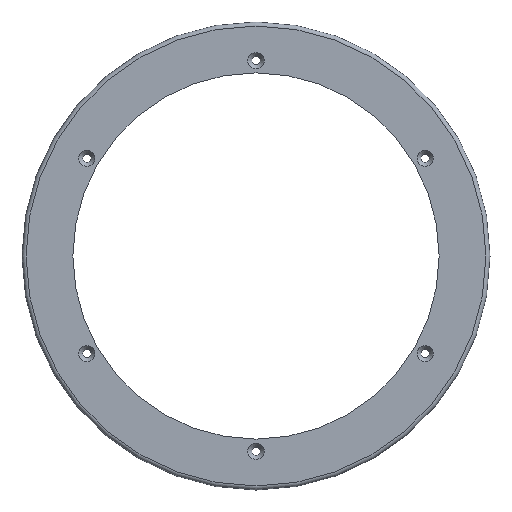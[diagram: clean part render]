
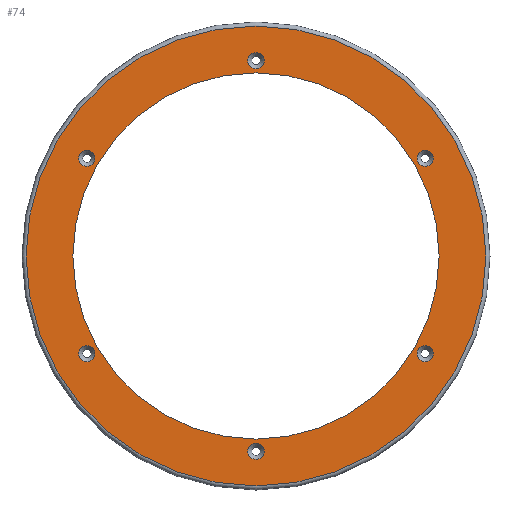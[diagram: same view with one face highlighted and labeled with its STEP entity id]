
A CAD part, front view. The second image highlights one B-rep face of the part: STEP entity #74.
In plain terms, the highlighted planar face has unit normal (0, -1, 0).
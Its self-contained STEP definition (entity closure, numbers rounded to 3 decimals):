
#74 = ADVANCED_FACE( '', ( #163, #164, #165, #166, #167, #168, #169, #170 ), #171, .T. );
#163 = FACE_BOUND( '', #270, .T. );
#164 = FACE_BOUND( '', #271, .T. );
#165 = FACE_BOUND( '', #272, .T. );
#166 = FACE_BOUND( '', #273, .T. );
#167 = FACE_BOUND( '', #274, .T. );
#168 = FACE_BOUND( '', #275, .T. );
#169 = FACE_OUTER_BOUND( '', #276, .T. );
#170 = FACE_BOUND( '', #277, .T. );
#171 = PLANE( '', #278 );
#270 = EDGE_LOOP( '', ( #399 ) );
#271 = EDGE_LOOP( '', ( #400 ) );
#272 = EDGE_LOOP( '', ( #401 ) );
#273 = EDGE_LOOP( '', ( #402 ) );
#274 = EDGE_LOOP( '', ( #403 ) );
#275 = EDGE_LOOP( '', ( #404 ) );
#276 = EDGE_LOOP( '', ( #405 ) );
#277 = EDGE_LOOP( '', ( #406 ) );
#278 = AXIS2_PLACEMENT_3D( '', #407, #408, #409 );
#399 = ORIENTED_EDGE( '', *, *, #468, .T. );
#400 = ORIENTED_EDGE( '', *, *, #483, .T. );
#401 = ORIENTED_EDGE( '', *, *, #462, .T. );
#402 = ORIENTED_EDGE( '', *, *, #494, .T. );
#403 = ORIENTED_EDGE( '', *, *, #459, .T. );
#404 = ORIENTED_EDGE( '', *, *, #495, .T. );
#405 = ORIENTED_EDGE( '', *, *, #496, .T. );
#406 = ORIENTED_EDGE( '', *, *, #486, .F. );
#407 = CARTESIAN_POINT( '', ( -115., 0., 0. ) );
#408 = DIRECTION( '', ( 0., -1., 0. ) );
#409 = DIRECTION( '', ( 1., 0., 0. ) );
#459 = EDGE_CURVE( '', #509, #509, #510, .T. );
#462 = EDGE_CURVE( '', #514, #514, #515, .T. );
#468 = EDGE_CURVE( '', #524, #524, #525, .T. );
#483 = EDGE_CURVE( '', #548, #548, #549, .T. );
#486 = EDGE_CURVE( '', #553, #553, #554, .T. );
#494 = EDGE_CURVE( '', #565, #565, #566, .T. );
#495 = EDGE_CURVE( '', #567, #567, #568, .T. );
#496 = EDGE_CURVE( '', #569, #569, #570, .T. );
#509 = VERTEX_POINT( '', #587 );
#510 = CIRCLE( '', #588, 4. );
#514 = VERTEX_POINT( '', #592 );
#515 = CIRCLE( '', #593, 4. );
#524 = VERTEX_POINT( '', #602 );
#525 = CIRCLE( '', #603, 4. );
#548 = VERTEX_POINT( '', #626 );
#549 = CIRCLE( '', #627, 4. );
#553 = VERTEX_POINT( '', #631 );
#554 = CIRCLE( '', #632, 90. );
#565 = VERTEX_POINT( '', #643 );
#566 = CIRCLE( '', #644, 4. );
#567 = VERTEX_POINT( '', #645 );
#568 = CIRCLE( '', #646, 4. );
#569 = VERTEX_POINT( '', #647 );
#570 = CIRCLE( '', #648, 113. );
#587 = CARTESIAN_POINT( '', ( -85.138, 0., -44.536 ) );
#588 = AXIS2_PLACEMENT_3D( '', #664, #665, #666 );
#592 = CARTESIAN_POINT( '', ( 4., 0., 96. ) );
#593 = AXIS2_PLACEMENT_3D( '', #670, #671, #672 );
#602 = CARTESIAN_POINT( '', ( 81.138, 0., -51.464 ) );
#603 = AXIS2_PLACEMENT_3D( '', #682, #683, #684 );
#626 = CARTESIAN_POINT( '', ( 85.138, 0., 44.536 ) );
#627 = AXIS2_PLACEMENT_3D( '', #709, #710, #711 );
#631 = CARTESIAN_POINT( '', ( 90., 0., 0. ) );
#632 = AXIS2_PLACEMENT_3D( '', #715, #716, #717 );
#643 = CARTESIAN_POINT( '', ( -81.138, 0., 51.464 ) );
#644 = AXIS2_PLACEMENT_3D( '', #727, #728, #729 );
#645 = CARTESIAN_POINT( '', ( -4., 0., -96. ) );
#646 = AXIS2_PLACEMENT_3D( '', #730, #731, #732 );
#647 = CARTESIAN_POINT( '', ( 113., 0., 0. ) );
#648 = AXIS2_PLACEMENT_3D( '', #733, #734, #735 );
#664 = CARTESIAN_POINT( '', ( -83.138, 0., -48. ) );
#665 = DIRECTION( '', ( 0., 1., 0. ) );
#666 = DIRECTION( '', ( -0.5, 0., 0.866 ) );
#670 = CARTESIAN_POINT( '', ( 0., 0., 96. ) );
#671 = DIRECTION( '', ( 0., 1., 0. ) );
#672 = DIRECTION( '', ( 1., 0., 0. ) );
#682 = CARTESIAN_POINT( '', ( 83.138, 0., -48. ) );
#683 = DIRECTION( '', ( 0., 1., 0. ) );
#684 = DIRECTION( '', ( -0.5, 0., -0.866 ) );
#709 = CARTESIAN_POINT( '', ( 83.138, 0., 48. ) );
#710 = DIRECTION( '', ( 0., 1., 0. ) );
#711 = DIRECTION( '', ( 0.5, 0., -0.866 ) );
#715 = CARTESIAN_POINT( '', ( 0., 0., 0. ) );
#716 = DIRECTION( '', ( 0., -1., 0. ) );
#717 = DIRECTION( '', ( 1., 0., 0. ) );
#727 = CARTESIAN_POINT( '', ( -83.138, 0., 48. ) );
#728 = DIRECTION( '', ( 0., 1., 0. ) );
#729 = DIRECTION( '', ( 0.5, 0., 0.866 ) );
#730 = CARTESIAN_POINT( '', ( 0., 0., -96. ) );
#731 = DIRECTION( '', ( 0., 1., 0. ) );
#732 = DIRECTION( '', ( -1., 0., 0. ) );
#733 = CARTESIAN_POINT( '', ( 0., 0., 0. ) );
#734 = DIRECTION( '', ( 0., -1., 0. ) );
#735 = DIRECTION( '', ( 1., 0., 0. ) );
